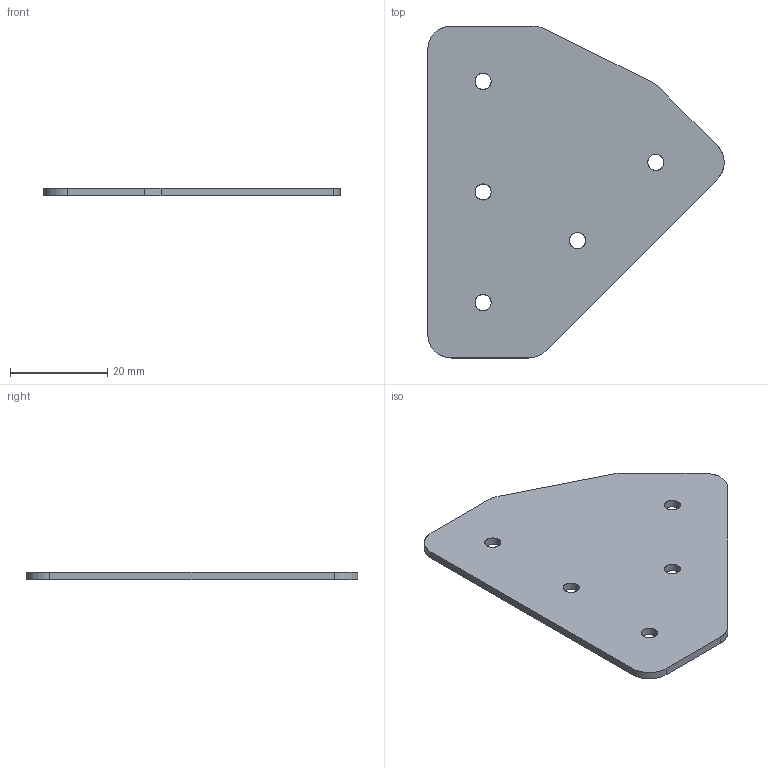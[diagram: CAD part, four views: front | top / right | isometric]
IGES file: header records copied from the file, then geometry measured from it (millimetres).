
Start section: SolidWorks IGES file using analytic representation for surfaces
Global section: file name: C:\Working\Gusset Convert\DRP-002-0005-03.igs; native system: SolidWorks 2010; preprocessor: SolidWorks 2010; author: mbush2; date: 100624.085932; units: inch
Bounding box: 60.91 x 68.2 x 1.59 mm (x, y, z)
Surface area: 6341.5 mm2 (no closed solid volume)
Topology: 0 solids, 0 shells, 24 faces, 484 edges, 484 vertices
Faces by surface type: revolution 16, bspline 8
